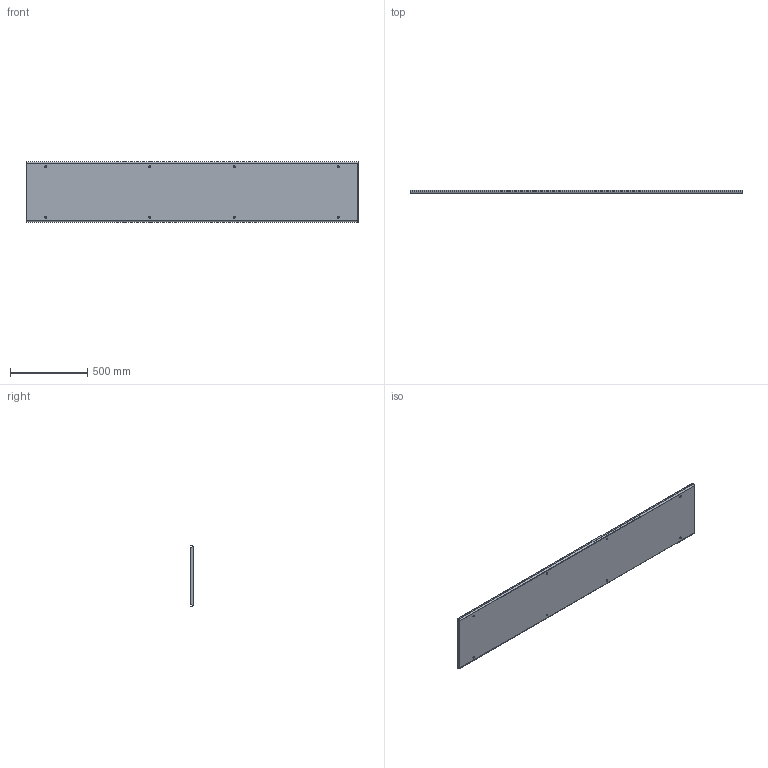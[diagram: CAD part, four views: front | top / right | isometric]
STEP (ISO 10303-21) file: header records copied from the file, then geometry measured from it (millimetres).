
FILE_DESCRIPTION(('CAx-IF Rec.Pracs.---Model Styling and Organization---1.2---2011-12-15','CAx-IF Rec.Pracs.---Geometric and Assembly Validation Properties---4.1---2014-06-16','CAx-IF Rec.Pracs.---PMI Polyline Presentation---2.0---2013-05-24'),'2;1');
FILE_NAME('R5CRE2240.stp','2021-05-06T03:13:06+03:00',(''),(''),'STEP Interface 4.4 by CT CoreTechnologie','3D_Evolution4.4 by CT CoreTechnologie','');
FILE_SCHEMA(('AUTOMOTIVE_DESIGN { 1 0 10303 214 1 1 1 1 }'));
Length unit declared in the file: millimetre
Products named in the file (4): R5CRE2240; AC00C622; QB05T082; QB05C082
Assembly tree (10 placements, depth 3):
  R5CRE2240
    AC00C622  x8
    QB05T082
      QB05C082
Bounding box: 2155 x 20 x 394 mm (x, y, z)
Surface area: 1868972.7 mm2 (no closed solid volume)
Topology: 0 solids, 11 shells, 286 faces, 808 edges, 544 vertices
Faces by surface type: plane 262, bspline 16, cylinder 8
Entity records: 3015 total; most frequent: CARTESIAN_POINT 667, ORIENTED_EDGE 440, DIRECTION 414, EDGE_CURVE 220, VECTOR 168, LINE 168, VERTEX_POINT 152, AXIS2_PLACEMENT_3D 123
